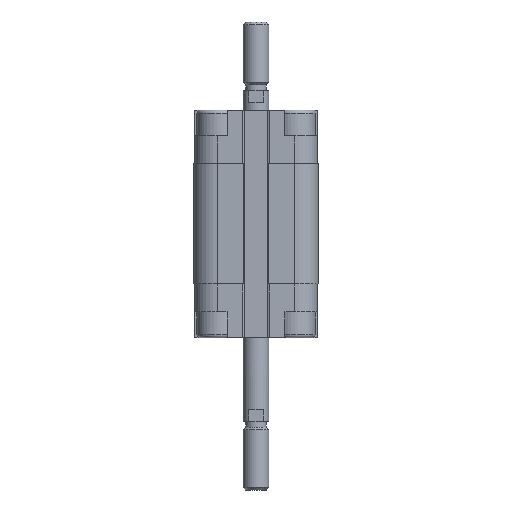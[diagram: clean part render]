
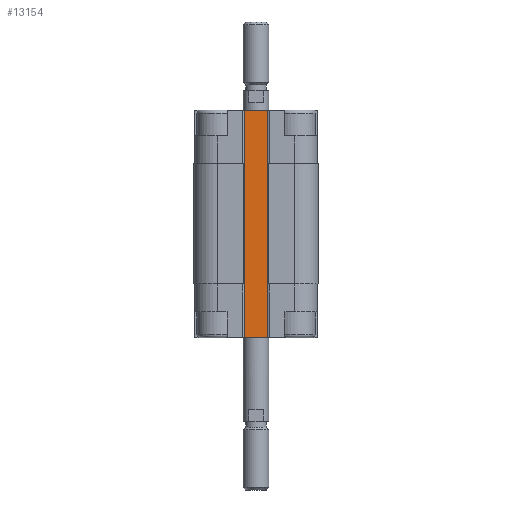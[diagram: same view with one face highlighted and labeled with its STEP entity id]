
A CAD part, front view. The second image highlights one B-rep face of the part: STEP entity #13154.
In plain terms, the highlighted planar face has unit normal (0, -1, 0).
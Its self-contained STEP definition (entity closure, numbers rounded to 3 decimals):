
#136 = EDGE_CURVE ( 'NONE', #11438, #6712, #9765, .T. ) ;
#341 = CARTESIAN_POINT ( 'NONE',  ( 3., -9.5, -12.5 ) ) ;
#377 = CARTESIAN_POINT ( 'NONE',  ( -3., -9.5, -53. ) ) ;
#883 = AXIS2_PLACEMENT_3D ( 'NONE', #10487, #9215, #7881 ) ;
#1134 = CARTESIAN_POINT ( 'NONE',  ( -3.2, -9.5, -12.5 ) ) ;
#1363 = VERTEX_POINT ( 'NONE', #1786 ) ;
#1786 = CARTESIAN_POINT ( 'NONE',  ( -3., -9.5, -40.5 ) ) ;
#2015 = LINE ( 'NONE', #2277, #5813 ) ;
#2277 = CARTESIAN_POINT ( 'NONE',  ( 3., -9.5, -53. ) ) ;
#2325 = EDGE_CURVE ( 'NONE', #10164, #17189, #4951, .T. ) ;
#2422 = DIRECTION ( 'NONE',  ( 1., 0., 0. ) ) ;
#2815 = ORIENTED_EDGE ( 'NONE', *, *, #3475, .T. ) ;
#2921 = VECTOR ( 'NONE', #3732, 1000. ) ;
#2964 = VERTEX_POINT ( 'NONE', #12105 ) ;
#2984 = VECTOR ( 'NONE', #14157, 1000. ) ;
#3355 = ORIENTED_EDGE ( 'NONE', *, *, #11223, .T. ) ;
#3475 = EDGE_CURVE ( 'NONE', #7788, #2964, #12205, .T. ) ;
#3732 = DIRECTION ( 'NONE',  ( 0., 0., 1. ) ) ;
#3735 = PLANE ( 'NONE',  #883 ) ;
#3736 = EDGE_CURVE ( 'NONE', #15158, #7051, #5920, .T. ) ;
#4019 = VERTEX_POINT ( 'NONE', #15642 ) ;
#4032 = CARTESIAN_POINT ( 'NONE',  ( 3., -9.5, 0. ) ) ;
#4282 = VECTOR ( 'NONE', #10522, 1000. ) ;
#4322 = LINE ( 'NONE', #16867, #15694 ) ;
#4454 = EDGE_CURVE ( 'NONE', #7788, #1363, #4512, .T. ) ;
#4512 = LINE ( 'NONE', #377, #14047 ) ;
#4582 = DIRECTION ( 'NONE',  ( 1., 0., 0. ) ) ;
#4896 = ORIENTED_EDGE ( 'NONE', *, *, #12055, .T. ) ;
#4951 = LINE ( 'NONE', #12036, #4282 ) ;
#5317 = ORIENTED_EDGE ( 'NONE', *, *, #11530, .T. ) ;
#5708 = LINE ( 'NONE', #11185, #14176 ) ;
#5813 = VECTOR ( 'NONE', #7491, 1000. ) ;
#5920 = LINE ( 'NONE', #11135, #2984 ) ;
#6075 = CARTESIAN_POINT ( 'NONE',  ( -3.2, -9.5, -12.5 ) ) ;
#6712 = VERTEX_POINT ( 'NONE', #6075 ) ;
#6873 = LINE ( 'NONE', #8146, #2921 ) ;
#7051 = VERTEX_POINT ( 'NONE', #11663 ) ;
#7155 = DIRECTION ( 'NONE',  ( 0., 0., 1. ) ) ;
#7240 = VECTOR ( 'NONE', #9715, 1000. ) ;
#7409 = CARTESIAN_POINT ( 'NONE',  ( -3., -9.5, -12.5 ) ) ;
#7462 = DIRECTION ( 'NONE',  ( 0., 0., 1. ) ) ;
#7491 = DIRECTION ( 'NONE',  ( 0., 0., 1. ) ) ;
#7788 = VERTEX_POINT ( 'NONE', #10603 ) ;
#7881 = DIRECTION ( 'NONE',  ( -1., 0., 0. ) ) ;
#7960 = LINE ( 'NONE', #1134, #9239 ) ;
#8146 = CARTESIAN_POINT ( 'NONE',  ( 3.2, -9.5, -40.5 ) ) ;
#8167 = EDGE_CURVE ( 'NONE', #17679, #4019, #4322, .T. ) ;
#8189 = CARTESIAN_POINT ( 'NONE',  ( 3., -9.5, -12.5 ) ) ;
#8262 = ORIENTED_EDGE ( 'NONE', *, *, #10237, .T. ) ;
#8679 = VECTOR ( 'NONE', #2422, 1000. ) ;
#8779 = ORIENTED_EDGE ( 'NONE', *, *, #4454, .F. ) ;
#9026 = ORIENTED_EDGE ( 'NONE', *, *, #2325, .F. ) ;
#9215 = DIRECTION ( 'NONE',  ( 0., -1., 0. ) ) ;
#9238 = LINE ( 'NONE', #15965, #8679 ) ;
#9239 = VECTOR ( 'NONE', #10751, 1000. ) ;
#9715 = DIRECTION ( 'NONE',  ( 0., 0., 1. ) ) ;
#9765 = LINE ( 'NONE', #13693, #14165 ) ;
#9893 = VECTOR ( 'NONE', #17591, 1000. ) ;
#9993 = EDGE_CURVE ( 'NONE', #6712, #10164, #7960, .T. ) ;
#10164 = VERTEX_POINT ( 'NONE', #7409 ) ;
#10237 = EDGE_CURVE ( 'NONE', #2964, #15158, #2015, .T. ) ;
#10487 = CARTESIAN_POINT ( 'NONE',  ( -3., -9.5, -12.5 ) ) ;
#10522 = DIRECTION ( 'NONE',  ( 0., 0., 1. ) ) ;
#10576 = ORIENTED_EDGE ( 'NONE', *, *, #136, .F. ) ;
#10603 = CARTESIAN_POINT ( 'NONE',  ( -3., -9.5, -53. ) ) ;
#10751 = DIRECTION ( 'NONE',  ( 1., 0., 0. ) ) ;
#11135 = CARTESIAN_POINT ( 'NONE',  ( -3.2, -9.5, -40.5 ) ) ;
#11185 = CARTESIAN_POINT ( 'NONE',  ( -3., -9.5, 0. ) ) ;
#11223 = EDGE_CURVE ( 'NONE', #17679, #11701, #16337, .T. ) ;
#11438 = VERTEX_POINT ( 'NONE', #12838 ) ;
#11530 = EDGE_CURVE ( 'NONE', #11438, #1363, #9238, .T. ) ;
#11663 = CARTESIAN_POINT ( 'NONE',  ( 3.2, -9.5, -40.5 ) ) ;
#11701 = VERTEX_POINT ( 'NONE', #4032 ) ;
#12036 = CARTESIAN_POINT ( 'NONE',  ( -3., -9.5, -12.5 ) ) ;
#12055 = EDGE_CURVE ( 'NONE', #7051, #4019, #6873, .T. ) ;
#12105 = CARTESIAN_POINT ( 'NONE',  ( 3., -9.5, -53. ) ) ;
#12205 = LINE ( 'NONE', #12374, #9893 ) ;
#12374 = CARTESIAN_POINT ( 'NONE',  ( -3., -9.5, -53. ) ) ;
#12838 = CARTESIAN_POINT ( 'NONE',  ( -3.2, -9.5, -40.5 ) ) ;
#13154 = ADVANCED_FACE ( 'NONE', ( #13243 ), #3735, .T. ) ;
#13243 = FACE_OUTER_BOUND ( 'NONE', #17398, .T. ) ;
#13693 = CARTESIAN_POINT ( 'NONE',  ( -3.2, -9.5, -40.5 ) ) ;
#13788 = CARTESIAN_POINT ( 'NONE',  ( 3., -9.5, -40.5 ) ) ;
#14047 = VECTOR ( 'NONE', #7462, 1000. ) ;
#14157 = DIRECTION ( 'NONE',  ( 1., 0., 0. ) ) ;
#14165 = VECTOR ( 'NONE', #7155, 1000. ) ;
#14176 = VECTOR ( 'NONE', #16648, 1000. ) ;
#15158 = VERTEX_POINT ( 'NONE', #13788 ) ;
#15642 = CARTESIAN_POINT ( 'NONE',  ( 3.2, -9.5, -12.5 ) ) ;
#15664 = ORIENTED_EDGE ( 'NONE', *, *, #9993, .F. ) ;
#15691 = EDGE_CURVE ( 'NONE', #17189, #11701, #5708, .T. ) ;
#15694 = VECTOR ( 'NONE', #4582, 1000. ) ;
#15745 = ORIENTED_EDGE ( 'NONE', *, *, #8167, .F. ) ;
#15767 = ORIENTED_EDGE ( 'NONE', *, *, #15691, .F. ) ;
#15965 = CARTESIAN_POINT ( 'NONE',  ( -3.2, -9.5, -40.5 ) ) ;
#16337 = LINE ( 'NONE', #8189, #7240 ) ;
#16361 = CARTESIAN_POINT ( 'NONE',  ( -3., -9.5, 0. ) ) ;
#16648 = DIRECTION ( 'NONE',  ( 1., 0., 0. ) ) ;
#16867 = CARTESIAN_POINT ( 'NONE',  ( 9., -9.5, -12.5 ) ) ;
#16962 = ORIENTED_EDGE ( 'NONE', *, *, #3736, .T. ) ;
#17189 = VERTEX_POINT ( 'NONE', #16361 ) ;
#17398 = EDGE_LOOP ( 'NONE', ( #15767, #9026, #15664, #10576, #5317, #8779, #2815, #8262, #16962, #4896, #15745, #3355 ) ) ;
#17591 = DIRECTION ( 'NONE',  ( 1., 0., 0. ) ) ;
#17679 = VERTEX_POINT ( 'NONE', #341 ) ;
